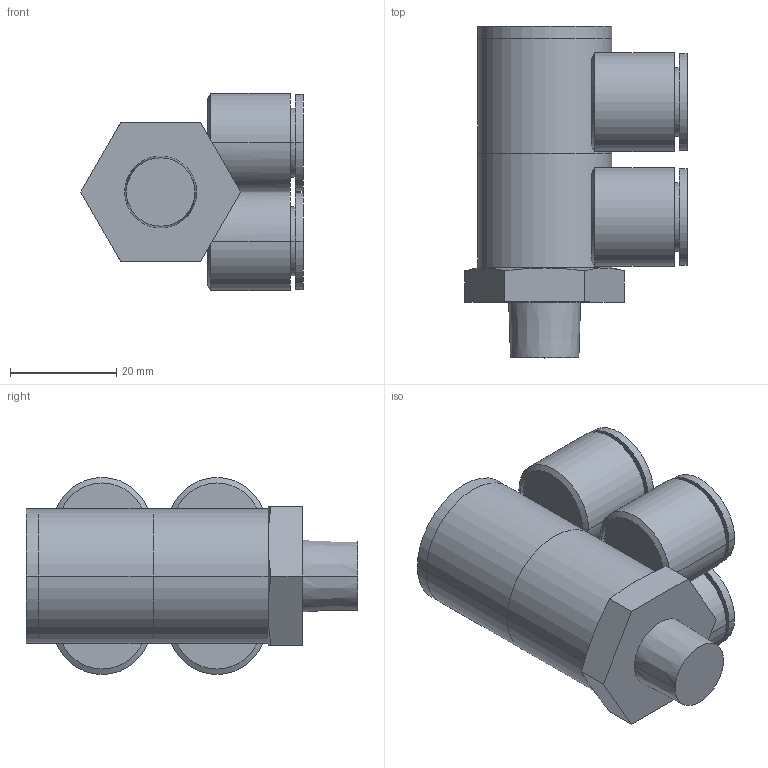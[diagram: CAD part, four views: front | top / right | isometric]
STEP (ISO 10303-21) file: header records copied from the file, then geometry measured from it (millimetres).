
FILE_DESCRIPTION (( 'STEP AP203' ), '1' );
FILE_NAME ('FZD12-02.STEP', '2020-05-11T14:49:53', ( '' ), ( '' ), 'SwSTEP 2.0', 'SolidWorks 2019', '' );
FILE_SCHEMA (( 'CONFIG_CONTROL_DESIGN' ));
Length unit declared in the file: millimetre
Products named in the file (1): FZD12-02
Bounding box: 41.81 x 62.4 x 37.05 mm (x, y, z)
Volume: 37423.9 mm3; surface area: 20864.2 mm2
Topology: 3 solids, 3 shells, 114 faces, 252 edges, 159 vertices
Faces by surface type: cylinder 60, plane 33, cone 21
Entity records: 3976 total; most frequent: CARTESIAN_POINT 1322, DIRECTION 577, ORIENTED_EDGE 504, EDGE_CURVE 252, AXIS2_PLACEMENT_3D 246, VERTEX_POINT 159, EDGE_LOOP 133, CIRCLE 131
